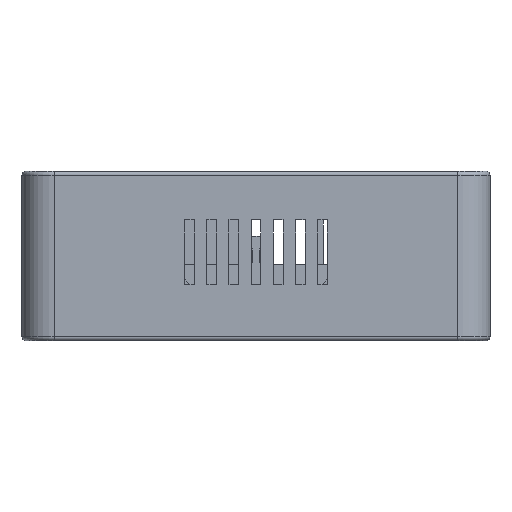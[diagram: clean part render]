
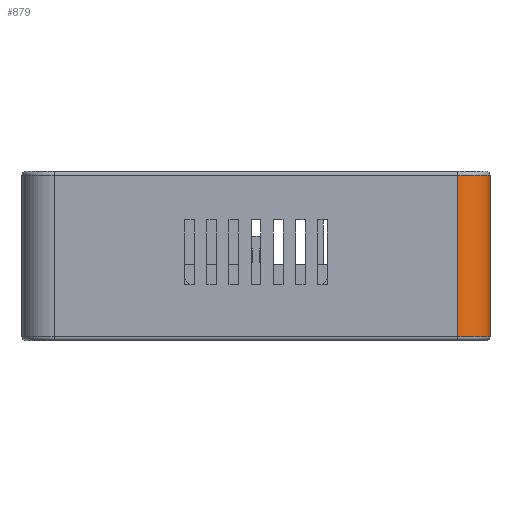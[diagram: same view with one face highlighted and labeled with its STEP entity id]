
A CAD part, left-side view. The second image highlights one B-rep face of the part: STEP entity #879.
In plain terms, the highlighted cylindrical face has radius 8 mm (diameter 16 mm), a partial arc.
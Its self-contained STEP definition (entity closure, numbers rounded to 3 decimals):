
#21 = EDGE_CURVE('',#22,#24,#26,.T.);
#22 = VERTEX_POINT('',#23);
#23 = CARTESIAN_POINT('',(-95.,-50.,1.));
#24 = VERTEX_POINT('',#25);
#25 = CARTESIAN_POINT('',(-95.,-50.,41.1));
#26 = SURFACE_CURVE('',#27,(#31,#43),.PCURVE_S1.);
#27 = LINE('',#28,#29);
#28 = CARTESIAN_POINT('',(-95.,-50.,0.));
#29 = VECTOR('',#30,1.);
#30 = DIRECTION('',(0.,0.,1.));
#31 = PCURVE('',#32,#37);
#32 = PLANE('',#33);
#33 = AXIS2_PLACEMENT_3D('',#34,#35,#36);
#34 = CARTESIAN_POINT('',(-95.,-50.,0.));
#35 = DIRECTION('',(-1.,0.,0.));
#36 = DIRECTION('',(0.,1.,0.));
#37 = DEFINITIONAL_REPRESENTATION('',(#38),#42);
#38 = LINE('',#39,#40);
#39 = CARTESIAN_POINT('',(0.,0.));
#40 = VECTOR('',#41,1.);
#41 = DIRECTION('',(0.,-1.));
#42 = ( GEOMETRIC_REPRESENTATION_CONTEXT(2) 
PARAMETRIC_REPRESENTATION_CONTEXT() REPRESENTATION_CONTEXT('2D SPACE',''
  ) );
#43 = PCURVE('',#44,#49);
#44 = CYLINDRICAL_SURFACE('',#45,8.);
#45 = AXIS2_PLACEMENT_3D('',#46,#47,#48);
#46 = CARTESIAN_POINT('',(-87.,-50.,0.));
#47 = DIRECTION('',(0.,0.,-1.));
#48 = DIRECTION('',(-1.,0.,0.));
#49 = DEFINITIONAL_REPRESENTATION('',(#50),#54);
#50 = LINE('',#51,#52);
#51 = CARTESIAN_POINT('',(6.283,0.));
#52 = VECTOR('',#53,1.);
#53 = DIRECTION('',(0.,-1.));
#54 = ( GEOMETRIC_REPRESENTATION_CONTEXT(2) 
PARAMETRIC_REPRESENTATION_CONTEXT() REPRESENTATION_CONTEXT('2D SPACE',''
  ) );
#879 = ADVANCED_FACE('',(#880),#44,.T.);
#880 = FACE_BOUND('',#881,.T.);
#881 = EDGE_LOOP('',(#882,#911,#939,#966));
#882 = ORIENTED_EDGE('',*,*,#883,.T.);
#883 = EDGE_CURVE('',#22,#884,#886,.T.);
#884 = VERTEX_POINT('',#885);
#885 = CARTESIAN_POINT('',(-87.,-58.,1.));
#886 = SURFACE_CURVE('',#887,(#892,#899),.PCURVE_S1.);
#887 = CIRCLE('',#888,8.);
#888 = AXIS2_PLACEMENT_3D('',#889,#890,#891);
#889 = CARTESIAN_POINT('',(-87.,-50.,1.));
#890 = DIRECTION('',(0.,0.,1.));
#891 = DIRECTION('',(-1.,0.,0.));
#892 = PCURVE('',#44,#893);
#893 = DEFINITIONAL_REPRESENTATION('',(#894),#898);
#894 = LINE('',#895,#896);
#895 = CARTESIAN_POINT('',(6.283,-1.));
#896 = VECTOR('',#897,1.);
#897 = DIRECTION('',(-1.,-0.));
#898 = ( GEOMETRIC_REPRESENTATION_CONTEXT(2) 
PARAMETRIC_REPRESENTATION_CONTEXT() REPRESENTATION_CONTEXT('2D SPACE',''
  ) );
#899 = PCURVE('',#900,#905);
#900 = TOROIDAL_SURFACE('',#901,7.,1.);
#901 = AXIS2_PLACEMENT_3D('',#902,#903,#904);
#902 = CARTESIAN_POINT('',(-87.,-50.,1.));
#903 = DIRECTION('',(-0.,-0.,-1.));
#904 = DIRECTION('',(0.,-1.,0.));
#905 = DEFINITIONAL_REPRESENTATION('',(#906),#910);
#906 = LINE('',#907,#908);
#907 = CARTESIAN_POINT('',(1.571,0.));
#908 = VECTOR('',#909,1.);
#909 = DIRECTION('',(-1.,-0.));
#910 = ( GEOMETRIC_REPRESENTATION_CONTEXT(2) 
PARAMETRIC_REPRESENTATION_CONTEXT() REPRESENTATION_CONTEXT('2D SPACE',''
  ) );
#911 = ORIENTED_EDGE('',*,*,#912,.T.);
#912 = EDGE_CURVE('',#884,#913,#915,.T.);
#913 = VERTEX_POINT('',#914);
#914 = CARTESIAN_POINT('',(-87.,-58.,41.1));
#915 = SURFACE_CURVE('',#916,(#920,#927),.PCURVE_S1.);
#916 = LINE('',#917,#918);
#917 = CARTESIAN_POINT('',(-87.,-58.,0.));
#918 = VECTOR('',#919,1.);
#919 = DIRECTION('',(0.,0.,1.));
#920 = PCURVE('',#44,#921);
#921 = DEFINITIONAL_REPRESENTATION('',(#922),#926);
#922 = LINE('',#923,#924);
#923 = CARTESIAN_POINT('',(4.712,0.));
#924 = VECTOR('',#925,1.);
#925 = DIRECTION('',(0.,-1.));
#926 = ( GEOMETRIC_REPRESENTATION_CONTEXT(2) 
PARAMETRIC_REPRESENTATION_CONTEXT() REPRESENTATION_CONTEXT('2D SPACE',''
  ) );
#927 = PCURVE('',#928,#933);
#928 = PLANE('',#929);
#929 = AXIS2_PLACEMENT_3D('',#930,#931,#932);
#930 = CARTESIAN_POINT('',(-87.,-58.,0.));
#931 = DIRECTION('',(0.,1.,0.));
#932 = DIRECTION('',(1.,0.,0.));
#933 = DEFINITIONAL_REPRESENTATION('',(#934),#938);
#934 = LINE('',#935,#936);
#935 = CARTESIAN_POINT('',(0.,0.));
#936 = VECTOR('',#937,1.);
#937 = DIRECTION('',(0.,-1.));
#938 = ( GEOMETRIC_REPRESENTATION_CONTEXT(2) 
PARAMETRIC_REPRESENTATION_CONTEXT() REPRESENTATION_CONTEXT('2D SPACE',''
  ) );
#939 = ORIENTED_EDGE('',*,*,#940,.T.);
#940 = EDGE_CURVE('',#913,#24,#941,.T.);
#941 = SURFACE_CURVE('',#942,(#947,#954),.PCURVE_S1.);
#942 = CIRCLE('',#943,8.);
#943 = AXIS2_PLACEMENT_3D('',#944,#945,#946);
#944 = CARTESIAN_POINT('',(-87.,-50.,41.1));
#945 = DIRECTION('',(0.,-0.,-1.));
#946 = DIRECTION('',(0.,-1.,0.));
#947 = PCURVE('',#44,#948);
#948 = DEFINITIONAL_REPRESENTATION('',(#949),#953);
#949 = LINE('',#950,#951);
#950 = CARTESIAN_POINT('',(4.712,-41.1));
#951 = VECTOR('',#952,1.);
#952 = DIRECTION('',(1.,0.));
#953 = ( GEOMETRIC_REPRESENTATION_CONTEXT(2) 
PARAMETRIC_REPRESENTATION_CONTEXT() REPRESENTATION_CONTEXT('2D SPACE',''
  ) );
#954 = PCURVE('',#955,#960);
#955 = TOROIDAL_SURFACE('',#956,7.,1.);
#956 = AXIS2_PLACEMENT_3D('',#957,#958,#959);
#957 = CARTESIAN_POINT('',(-87.,-50.,41.1));
#958 = DIRECTION('',(0.,0.,1.));
#959 = DIRECTION('',(0.,-1.,0.));
#960 = DEFINITIONAL_REPRESENTATION('',(#961),#965);
#961 = LINE('',#962,#963);
#962 = CARTESIAN_POINT('',(-0.,0.));
#963 = VECTOR('',#964,1.);
#964 = DIRECTION('',(-1.,0.));
#965 = ( GEOMETRIC_REPRESENTATION_CONTEXT(2) 
PARAMETRIC_REPRESENTATION_CONTEXT() REPRESENTATION_CONTEXT('2D SPACE',''
  ) );
#966 = ORIENTED_EDGE('',*,*,#21,.F.);
